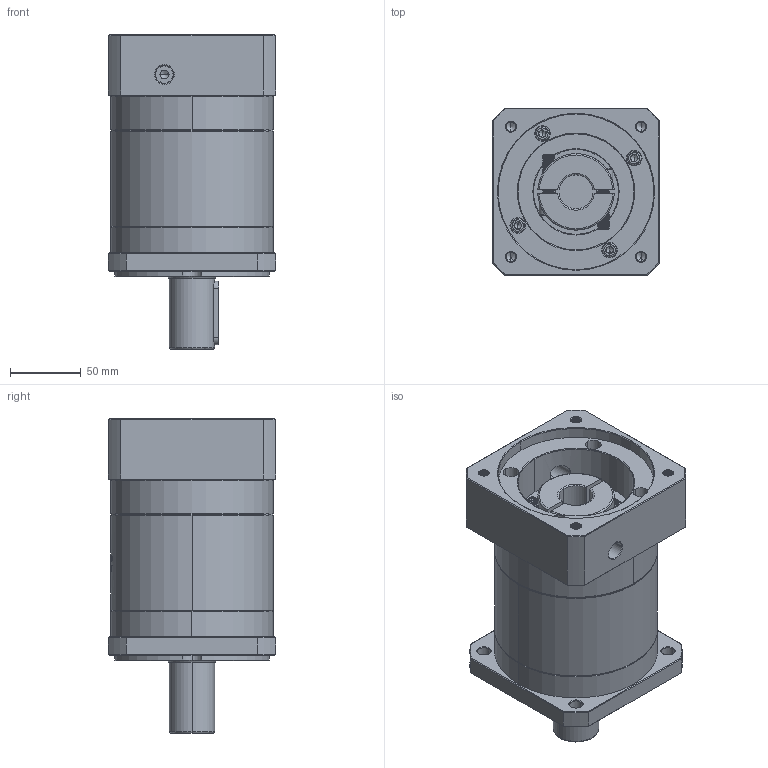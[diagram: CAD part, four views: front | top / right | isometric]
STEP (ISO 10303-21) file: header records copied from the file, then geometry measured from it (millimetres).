
FILE_DESCRIPTION (( 'STEP AP214' ), '1' );
FILE_NAME ('ZF120A-D32-L2-P2-24-110-130-M8.step', '2023-08-27T04:46:07', ( '' ), ( '' ), 'SwSTEP 2.0', 'SolidWorks 2016', '' );
FILE_SCHEMA (( 'AUTOMOTIVE_DESIGN' ));
Length unit declared in the file: millimetre
Products named in the file (1): ZF120A-D32-L2-P2-24-110-130-M8
Bounding box: 118 x 118 x 222 mm (x, y, z)
Volume: 1753813.9 mm3; surface area: 177237.2 mm2
Topology: 6 solids, 6 shells, 2219 faces, 5887 edges, 3773 vertices
Faces by surface type: plane 1034, cylinder 422, bspline 419, cone 324, torus 20
Entity records: 122992 total; most frequent: CARTESIAN_POINT 48910, ORIENTED_EDGE 11714, DIRECTION 8486, EDGE_CURVE 5857, VERTEX_POINT 3773, LINE 3092, VECTOR 3092, AXIS2_PLACEMENT_3D 2697
